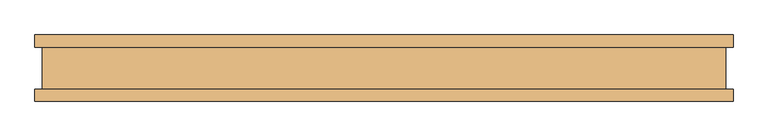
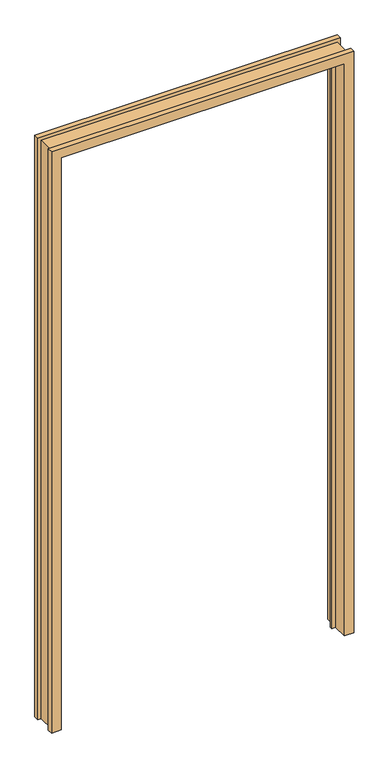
"""IFC4 building model written with IfcOpenShell, lengths in millimetres: door geometry, Frame-Solid_Hinged-AIH-Teknion-FHJA-Jamb_Kit_Single-R2022 : FHJA."""

from ifc_helpers import new_model, si_unit, origin, place, context, project, spatial, faceted_brep, source, transform, mapped, element, save


def door_8f55ec08(model_context):
    return source(origin(), model_context, "Body", "Brep", [
        faceted_brep([(-525.3482, -31.447233, 0.0), (-514.35, -31.447233, 0.0), (-514.35, 31.468567, 0.0), (-525.3482, 31.468567, 0.0), (-525.3482, 50.010667, 0.0), (-492.3282, 50.010667, 0.0), (-492.3282, 10.907167, 0.0), (-479.3742, 10.907167, 0.0), (-479.3742, 2.6789063, 0.0), (-492.3282, 2.6789063, 0.0), (-492.3282, -49.989233, 0.0), (-525.3482, -49.989233, 0.0), (-525.3482, -49.989233, 2133.5925997), (-525.3482, -31.447233, 2133.5925997), (-492.3282, -49.989233, 2100.5725997), (492.3282, -49.989233, 2100.5725997), (492.3282, -49.989233, 0.0), (525.3482, -49.989233, 0.0), (525.3482, -49.989233, 2133.5925997), (-492.3282, 2.6789063, 2100.5725997), (-479.3742, 2.6789063, 2087.6185997), (479.3742, 2.6789063, 2087.6185997), (479.3742, 2.6789063, 0.0), (492.3282, 2.6789063, 0.0), (492.3282, 2.6789063, 2100.5725997), (-479.3742, 10.907167, 2087.6185997), (-492.3282, 10.907167, 2100.5725997), (492.3282, 10.907167, 2100.5725997), (492.3282, 10.907167, 0.0), (479.3742, 10.907167, 0.0), (479.3742, 10.907167, 2087.6185997), (-492.3282, 50.010667, 2100.5725997), (-525.3482, 50.010667, 2133.5925997), (525.3482, 50.010667, 2133.5925997), (525.3482, 50.010667, 0.0), (492.3282, 50.010667, 0.0), (492.3282, 50.010667, 2100.5725997), (-525.3482, 31.468567, 2133.5925997), (-514.35, 31.468567, 2122.5943997), (514.35, 31.468567, 2122.5943997), (514.35, 31.468567, 0.0), (525.3482, 31.468567, 0.0), (525.3482, 31.468567, 2133.5925997), (-514.35, -31.447233, 2122.5943997), (525.3482, -31.447233, 2133.5925997), (525.3482, -31.447233, 0.0), (514.35, -31.447233, 0.0), (514.35, -31.447233, 2122.5943997)], [[[0, 1, 2, 3, 4, 5, 6, 7, 8, 9, 10, 11]], [[11, 12, 13, 0]], [[10, 14, 15, 16, 17, 18, 12, 11]], [[9, 19, 14, 10]], [[8, 20, 21, 22, 23, 24, 19, 9]], [[7, 25, 20, 8]], [[6, 26, 27, 28, 29, 30, 25, 7]], [[5, 31, 26, 6]], [[4, 32, 33, 34, 35, 36, 31, 5]], [[3, 37, 32, 4]], [[2, 38, 39, 40, 41, 42, 37, 3]], [[1, 43, 38, 2]], [[0, 13, 44, 45, 46, 47, 43, 1]], [[36, 35, 28, 27]], [[45, 17, 16, 23, 22, 29, 28, 35, 34, 41, 40, 46]], [[47, 46, 40, 39]], [[30, 29, 22, 21]], [[24, 23, 16, 15]], [[18, 17, 45, 44]], [[42, 41, 34, 33]], [[31, 36, 27, 26]], [[43, 47, 39, 38]], [[25, 30, 21, 20]], [[19, 24, 15, 14]], [[12, 18, 44, 13]], [[37, 42, 33, 32]]]),
    ])


if __name__ == "__main__":
    model = new_model("IFC4")
    model_context = context("Model", 3, world=origin())
    ifc_project = project(units=[si_unit("LENGTHUNIT", "METRE", prefix="MILLI")], contexts=[model_context])
    site = spatial("IfcSite", under=ifc_project)
    building = spatial("IfcBuilding", under=site)
    placement = place(None, origin())
    door_shape = door_8f55ec08(model_context)
    element("IfcDoor", 1, ObjectType="Frame-Solid_Hinged-AIH-Teknion-FHJA-Jamb_Kit_Single-R2022 : FHJA", at=placement, inside=building, context=model_context, shape_type="MappedRepresentation", body=[
        mapped(door_shape, transform((0.0, 0.0, 0.0), x_axis=(1.0, 0.0, 0.0), y_axis=(0.0, 1.0, 0.0), z_axis=(0.0, 0.0, 1.0))),
    ])
    save(model, "model.ifc")
